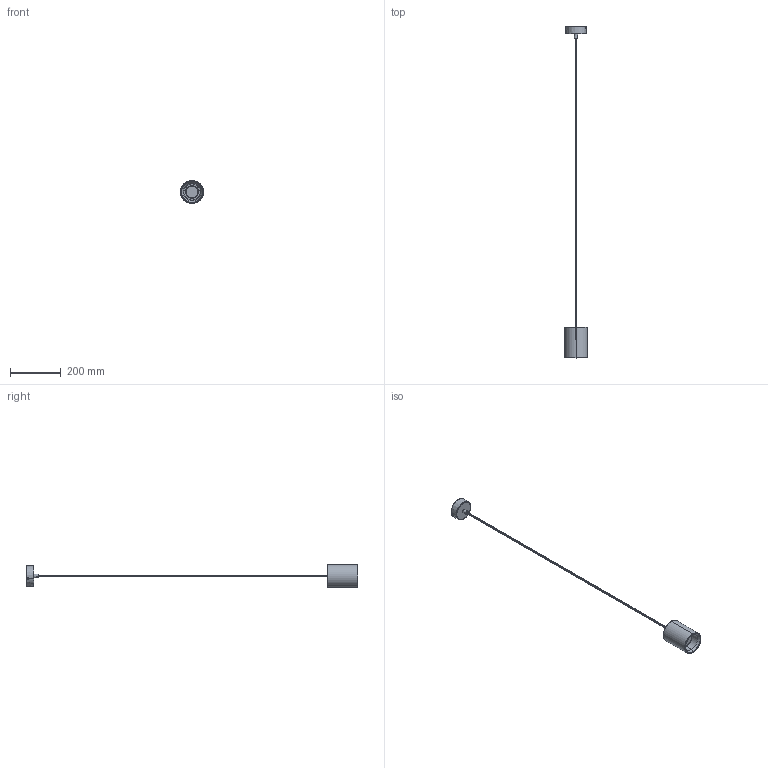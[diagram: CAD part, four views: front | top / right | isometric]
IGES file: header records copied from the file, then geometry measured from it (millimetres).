
Start section: SolidWorks IGES file using analytic representation for surfaces
Global section: file name: E:\3D lampy\Shy\Shy_9391.IGS; native system: SolidWorks 2017; preprocessor: SolidWorks 2017; author: Asia; date: 180119.141932; units: millimetre
Bounding box: 90 x 1302.72 x 90 mm (x, y, z)
Surface area: 148523.8 mm2 (no closed solid volume)
Topology: 0 solids, 0 shells, 615 faces, 8843 edges, 8825 vertices
Faces by surface type: bspline 356, revolution 259
